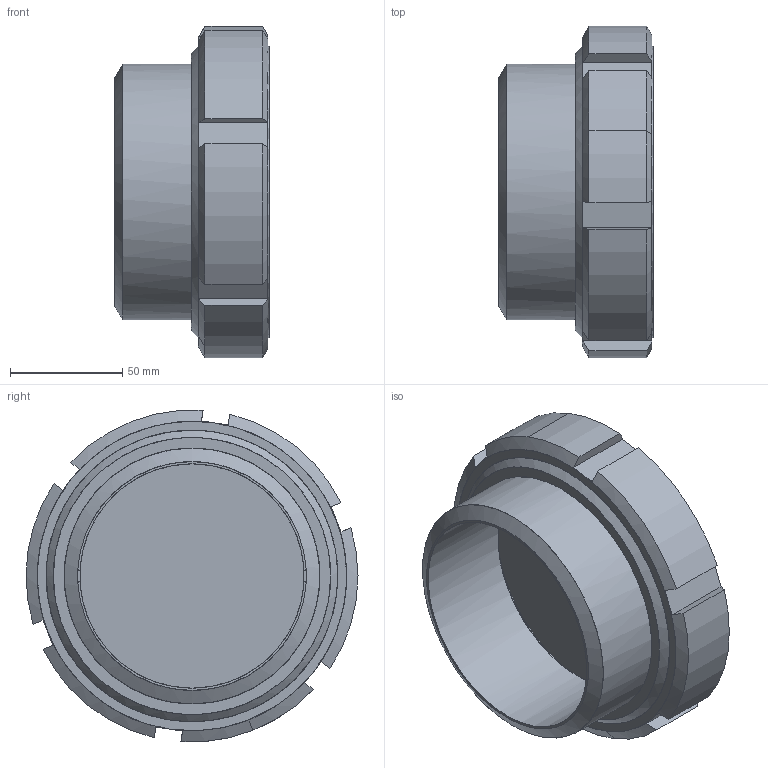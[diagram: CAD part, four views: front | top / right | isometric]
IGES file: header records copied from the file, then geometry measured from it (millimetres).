
Start section: C
Global section: file name: MV 100.igs; native system: By Siemens PLM Incorporated; preprocessor: XPlus GENERIC/IGES 18.0.17; author: Author; organization: Title; date: 20160118.151643; units: millimetre
Bounding box: 68.75 x 148 x 147.67 mm (x, y, z)
Surface area: 137105 mm2 (no closed solid volume)
Topology: 0 solids, 0 shells, 79 faces, 442 edges, 442 vertices
Faces by surface type: bspline 79
